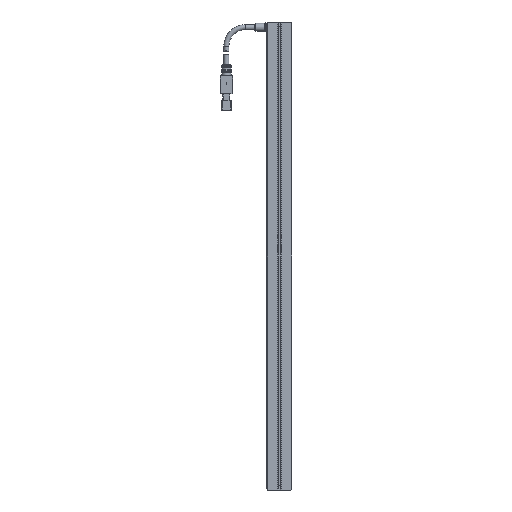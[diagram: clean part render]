
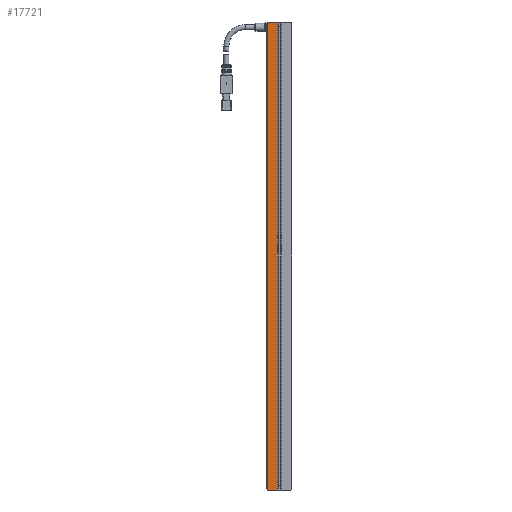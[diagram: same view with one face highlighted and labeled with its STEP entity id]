
A CAD part, front view. The second image highlights one B-rep face of the part: STEP entity #17721.
In plain terms, the highlighted planar face has unit normal (0, -1, 0).
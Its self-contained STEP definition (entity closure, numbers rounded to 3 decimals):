
#64 = LINE ( 'NONE', #7766, #6970 ) ;
#107 = VECTOR ( 'NONE', #5760, 1000. ) ;
#642 = DIRECTION ( 'NONE',  ( -0.707, 0., -0.707 ) ) ;
#917 = CARTESIAN_POINT ( 'NONE',  ( -9.5, 0., 188. ) ) ;
#1246 = PLANE ( 'NONE',  #3864 ) ;
#2524 = VECTOR ( 'NONE', #10982, 1000. ) ;
#2882 = VERTEX_POINT ( 'NONE', #17711 ) ;
#2986 = CARTESIAN_POINT ( 'NONE',  ( 0., 0., -188. ) ) ;
#3288 = ORIENTED_EDGE ( 'NONE', *, *, #17165, .T. ) ;
#3327 = ORIENTED_EDGE ( 'NONE', *, *, #10677, .F. ) ;
#3579 = LINE ( 'NONE', #6547, #4052 ) ;
#3864 = AXIS2_PLACEMENT_3D ( 'NONE', #8131, #12686, #13932 ) ;
#4052 = VECTOR ( 'NONE', #16597, 1000. ) ;
#4398 = CARTESIAN_POINT ( 'NONE',  ( 0., 0., 188. ) ) ;
#5514 = ORIENTED_EDGE ( 'NONE', *, *, #16281, .T. ) ;
#5760 = DIRECTION ( 'NONE',  ( -1., 0., 0. ) ) ;
#6300 = FACE_OUTER_BOUND ( 'NONE', #15177, .T. ) ;
#6547 = CARTESIAN_POINT ( 'NONE',  ( -1.75, 0., 188. ) ) ;
#6970 = VECTOR ( 'NONE', #642, 1000. ) ;
#6974 = ORIENTED_EDGE ( 'NONE', *, *, #11999, .T. ) ;
#7108 = CARTESIAN_POINT ( 'NONE',  ( -9.5, 0., 187.5 ) ) ;
#7249 = LINE ( 'NONE', #917, #2524 ) ;
#7560 = VERTEX_POINT ( 'NONE', #14313 ) ;
#7766 = CARTESIAN_POINT ( 'NONE',  ( -4.5, 0., 192.5 ) ) ;
#8131 = CARTESIAN_POINT ( 'NONE',  ( 0., 0., 188. ) ) ;
#8657 = EDGE_CURVE ( 'NONE', #16746, #2882, #11046, .T. ) ;
#9455 = LINE ( 'NONE', #2986, #9928 ) ;
#9928 = VECTOR ( 'NONE', #13050, 1000. ) ;
#10677 = EDGE_CURVE ( 'NONE', #16746, #7560, #3579, .T. ) ;
#10982 = DIRECTION ( 'NONE',  ( 0., 0., -1. ) ) ;
#11046 = LINE ( 'NONE', #4398, #107 ) ;
#11137 = DIRECTION ( 'NONE',  ( 0.707, 0., -0.707 ) ) ;
#11209 = CARTESIAN_POINT ( 'NONE',  ( -192.5, 0., -4.5 ) ) ;
#11999 = EDGE_CURVE ( 'NONE', #13405, #16476, #17394, .T. ) ;
#12686 = DIRECTION ( 'NONE',  ( 0., -1., 0. ) ) ;
#13050 = DIRECTION ( 'NONE',  ( -1., 0., 0. ) ) ;
#13405 = VERTEX_POINT ( 'NONE', #17313 ) ;
#13932 = DIRECTION ( 'NONE',  ( 1., 0., 0. ) ) ;
#14311 = CARTESIAN_POINT ( 'NONE',  ( -9., 0., -188. ) ) ;
#14313 = CARTESIAN_POINT ( 'NONE',  ( -1.75, 0., -188. ) ) ;
#15177 = EDGE_LOOP ( 'NONE', ( #15433, #3288, #5514, #6974, #16079, #3327 ) ) ;
#15381 = VECTOR ( 'NONE', #11137, 1000. ) ;
#15433 = ORIENTED_EDGE ( 'NONE', *, *, #8657, .T. ) ;
#16079 = ORIENTED_EDGE ( 'NONE', *, *, #16516, .F. ) ;
#16281 = EDGE_CURVE ( 'NONE', #18489, #13405, #7249, .T. ) ;
#16476 = VERTEX_POINT ( 'NONE', #14311 ) ;
#16516 = EDGE_CURVE ( 'NONE', #7560, #16476, #9455, .T. ) ;
#16597 = DIRECTION ( 'NONE',  ( 0., 0., -1. ) ) ;
#16746 = VERTEX_POINT ( 'NONE', #17947 ) ;
#17165 = EDGE_CURVE ( 'NONE', #2882, #18489, #64, .T. ) ;
#17313 = CARTESIAN_POINT ( 'NONE',  ( -9.5, 0., -187.5 ) ) ;
#17394 = LINE ( 'NONE', #11209, #15381 ) ;
#17711 = CARTESIAN_POINT ( 'NONE',  ( -9., 0., 188. ) ) ;
#17721 = ADVANCED_FACE ( 'NONE', ( #6300 ), #1246, .T. ) ;
#17947 = CARTESIAN_POINT ( 'NONE',  ( -1.75, 0., 188. ) ) ;
#18489 = VERTEX_POINT ( 'NONE', #7108 ) ;
